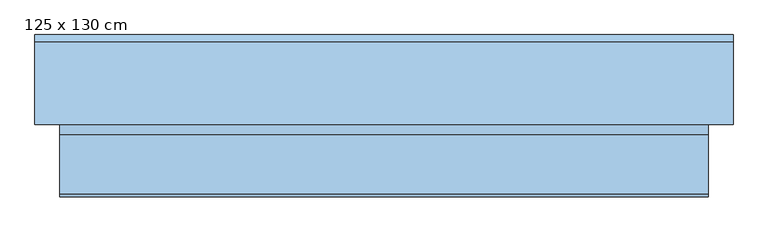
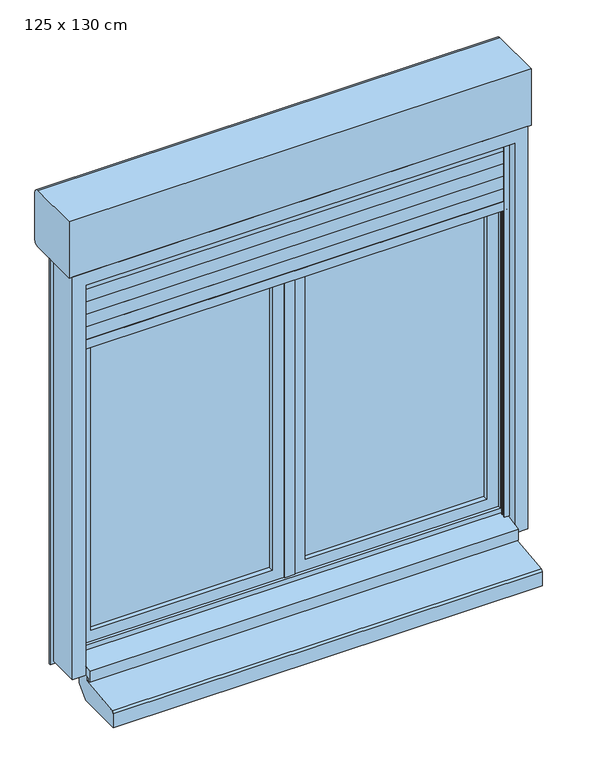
"""IFC4 building model written with IfcOpenShell, lengths in millimetres: window geometry, VR-2 Vantaux : 125 x 130 cm."""

import ifcopenshell
import ifcopenshell.guid

model = None  # the IFC model being written
_history = None  # IfcOwnerHistory: only IFC2X3 demands one
_inside = {}  # id of a spatial element -> (the spatial element, [elements in it])
_under = {}  # id of a project, library or spatial element -> (it, [spatial elements below it])
_declared = {}  # id of a project -> (the project, [libraries it declares])
_typed = {}  # id of a type object -> (the type object, [elements of that type])
_made_of = {}  # id of a material, layer set ... -> (it, [elements and type objects made of it])


def new_model(schema):
    """Start an empty IFC model of exactly this schema.

    Asked for "IFC4X3", IfcOpenShell would pick the latest addendum, in which some entities
    have other attributes; the version numbers below select the first issue.
    IFC2X3 requires an IfcOwnerHistory on every rooted entity: one is made here for all.
    """
    global model, _history
    if schema == "IFC4X3":
        model = ifcopenshell.file(schema_version=(4, 3, 0, 0))
    else:
        model = ifcopenshell.file(schema=schema)
    _inside.clear()
    _under.clear()
    _declared.clear()
    _typed.clear()
    _made_of.clear()
    _history = None
    if model.schema == "IFC2X3":
        org = make("IfcOrganization", Name="unknown")
        user = make(
            "IfcPersonAndOrganization",
            ThePerson=make("IfcPerson", FamilyName="unknown"),
            TheOrganization=org,
        )
        app = make(
            "IfcApplication",
            ApplicationDeveloper=org,
            Version="unknown",
            ApplicationFullName="unknown",
            ApplicationIdentifier="unknown",
        )
        _history = make(
            "IfcOwnerHistory",
            OwningUser=user,
            OwningApplication=app,
            ChangeAction="ADDED",
            CreationDate=0,
        )
    return model


def make(cls, **values):
    """One entity of the class cls with the attributes given. An attribute that is None is left unset."""
    return model.create_entity(
        cls, **{name: value for name, value in values.items() if value is not None}
    )


def rooted(cls, **values):
    """An entity with a GlobalId (a new one), such as an element, a storey or a relation."""
    return make(cls, GlobalId=ifcopenshell.guid.new(), OwnerHistory=_history, **values)


def si_unit(unit_type, name, prefix=None):
    """IfcSIUnit, for example si_unit("LENGTHUNIT", "METRE", prefix="MILLI")."""
    return make("IfcSIUnit", UnitType=unit_type, Prefix=prefix, Name=name)


def assignment(units):
    """IfcUnitAssignment: the units of a project."""
    return None if units is None else make("IfcUnitAssignment", Units=units)


def point(xyz):
    """IfcCartesianPoint."""
    return None if xyz is None else make("IfcCartesianPoint", Coordinates=xyz)


def direction(xyz):
    """IfcDirection."""
    return None if xyz is None else make("IfcDirection", DirectionRatios=xyz)


def frame(location, z_axis=None, x_axis=None):
    """IfcAxis2Placement3D, a coordinate frame: its origin and axes. An axis left out is left unset."""
    return make(
        "IfcAxis2Placement3D",
        Location=point(location),
        Axis=direction(z_axis),
        RefDirection=direction(x_axis),
    )


def frame_2d(location, x_axis=None):
    """IfcAxis2Placement2D, a coordinate frame in the plane: its origin and x axis."""
    return make(
        "IfcAxis2Placement2D", Location=point(location), RefDirection=direction(x_axis)
    )


def origin():
    """The frame at (0, 0, 0) with its axes left unset."""
    return frame((0.0, 0.0, 0.0))


def place(relative_to, where):
    """IfcLocalPlacement: puts the frame where relative to a parent placement (None: the world)."""
    return make(
        "IfcLocalPlacement", PlacementRelTo=relative_to, RelativePlacement=where
    )


def context(
    kind, dimensions, precision=None, world=None, true_north=None, identifier=None
):
    """IfcGeometricRepresentationContext, for example the 3D "Model" context."""
    return make(
        "IfcGeometricRepresentationContext",
        ContextIdentifier=identifier,
        ContextType=kind,
        CoordinateSpaceDimension=dimensions,
        Precision=precision,
        WorldCoordinateSystem=world,
        TrueNorth=true_north,
    )


def project(units=None, contexts=None):
    """IfcProject with its units and contexts."""
    return rooted(
        "IfcProject",
        Name="project",
        RepresentationContexts=contexts,
        UnitsInContext=assignment(units),
    )


def spatial(cls, under=None, at=None, **own):
    """A site, building, storey or space (cls), placed at a placement, below another one or the project."""
    s = rooted(cls, ObjectPlacement=at, **own)
    if under is not None:
        _under.setdefault(under.id(), (under, []))[1].append(s)
    return s


def polyline(points):
    """IfcPolyline through the points."""
    return make("IfcPolyline", Points=[point(p) for p in points])


def circle_curve(where, radius):
    """IfcCircle in the frame where."""
    return make("IfcCircle", Position=where, Radius=radius)


def trimmed(basis, trim1, trim2, sense, master):
    """IfcTrimmedCurve: the piece of a basis curve between two trims."""
    return make(
        "IfcTrimmedCurve",
        BasisCurve=basis,
        Trim1=trim1,
        Trim2=trim2,
        SenseAgreement=sense,
        MasterRepresentation=master,
    )


def segment(curve, same_sense, transition):
    """IfcCompositeCurveSegment."""
    return make(
        "IfcCompositeCurveSegment",
        Transition=transition,
        SameSense=same_sense,
        ParentCurve=curve,
    )


def composite_curve(segments, self_intersect=None):
    """IfcCompositeCurve: segments joined end to end."""
    return make("IfcCompositeCurve", Segments=segments, SelfIntersect=self_intersect)


def outline(outer, holes=None, kind="AREA"):
    """IfcArbitraryClosedProfileDef: a profile drawn as a closed curve; with holes, ...WithVoids."""
    if holes is None:
        return make("IfcArbitraryClosedProfileDef", ProfileType=kind, OuterCurve=outer)
    return make(
        "IfcArbitraryProfileDefWithVoids",
        ProfileType=kind,
        OuterCurve=outer,
        InnerCurves=holes,
    )


def extrude(swept, where, along, depth):
    """IfcExtrudedAreaSolid: the profile swept, set in the frame where, extruded along a direction by depth."""
    return make(
        "IfcExtrudedAreaSolid",
        SweptArea=swept,
        Position=where,
        ExtrudedDirection=direction(along),
        Depth=depth,
    )


def faces_of(points, faces, orient=None, outer=None):
    """IfcFace entities. A face is a list of loops; a loop is a list of indices into points, from 0.

    orient and outer hold one flag for each loop. By default every Orientation is true, the
    first loop of a face is its IfcFaceOuterBound and the others are IfcFaceBound.
    """
    made = []
    for i, loops in enumerate(faces):
        bounds = []
        for j, loop in enumerate(loops):
            is_outer = j == 0 if outer is None else outer[i][j]
            bounds.append(
                make(
                    "IfcFaceOuterBound" if is_outer else "IfcFaceBound",
                    Bound=make("IfcPolyLoop", Polygon=[points[k] for k in loop]),
                    Orientation=True if orient is None else orient[i][j],
                )
            )
        made.append(make("IfcFace", Bounds=bounds))
    return made


def faceted_brep(points, faces, orient=None, outer=None, voids=None):
    """IfcFacetedBrep: a solid bounded by flat faces; with voids (closed shells), ...WithVoids."""
    shared = [point(p) for p in points]
    hull = make("IfcClosedShell", CfsFaces=faces_of(shared, faces, orient, outer))
    if voids is None:
        return make("IfcFacetedBrep", Outer=hull)
    return make(
        "IfcFacetedBrepWithVoids",
        Outer=hull,
        Voids=[
            make(cls, CfsFaces=faces_of(shared, fs, o, b)) for cls, fs, o, b in voids
        ],
    )


def shape(context_of_items, identifier, shape_type, items):
    """IfcShapeRepresentation: the items that make up one representation, for example the "Body"."""
    return make(
        "IfcShapeRepresentation",
        ContextOfItems=context_of_items,
        RepresentationIdentifier=identifier,
        RepresentationType=shape_type,
        Items=items,
    )


def source(mapping_origin, context_of_items, identifier, shape_type, items):
    """IfcRepresentationMap: a shape defined once, which mapped items show again and again."""
    return make(
        "IfcRepresentationMap",
        MappingOrigin=mapping_origin,
        MappedRepresentation=shape(context_of_items, identifier, shape_type, items),
    )


def transform(
    local_origin,
    x_axis=None,
    y_axis=None,
    z_axis=None,
    scale=None,
    scale2=None,
    scale3=None,
    uniform=True,
):
    """IfcCartesianTransformationOperator3D, or its non-uniform kind. x_axis, y_axis, z_axis: its Axis1, 2, 3."""
    if uniform:
        return make(
            "IfcCartesianTransformationOperator3D",
            Axis1=direction(x_axis),
            Axis2=direction(y_axis),
            LocalOrigin=point(local_origin),
            Scale=scale,
            Axis3=direction(z_axis),
        )
    return make(
        "IfcCartesianTransformationOperator3DnonUniform",
        Axis1=direction(x_axis),
        Axis2=direction(y_axis),
        LocalOrigin=point(local_origin),
        Scale=scale,
        Axis3=direction(z_axis),
        Scale2=scale2,
        Scale3=scale3,
    )


def mapped(mapping_source, mapping_target):
    """IfcMappedItem: shows the shape of a source again, moved by a transform."""
    return make(
        "IfcMappedItem", MappingSource=mapping_source, MappingTarget=mapping_target
    )


def made_of(thing, what):
    """Note that an element or type object is made of a material, layer set ...; save() writes the relation."""
    if what is not None:
        _made_of.setdefault(what.id(), (what, []))[1].append(thing)
    return thing


def element(
    cls,
    number,
    at=None,
    inside=None,
    cuts=None,
    type_object=None,
    material=None,
    context=None,
    identifier="Body",
    shape_type=None,
    held_by="IfcProductDefinitionShape",
    body=None,
    shapes=None,
    **own,
):
    """One element of the class cls, such as IfcWall. Its Tag is "e" and its number.

    at: its placement. inside: the storey or other place that contains it. cuts: it is an
    opening in that element (IfcRelVoidsElement). A single representation is given by context,
    identifier, shape_type and body (its items); several are given by shapes. held_by: the class
    of the entity that holds the representations. save() writes the other relations.
    """
    e = rooted(cls, Tag="e%d" % number, ObjectPlacement=at, **own)
    if body is not None:
        shapes = [shape(context, identifier, shape_type, body)]
    if shapes is not None:
        e.Representation = make(held_by, Representations=shapes)
    if inside is not None:
        _inside.setdefault(inside.id(), (inside, []))[1].append(e)
    if cuts is not None:
        rooted(
            "IfcRelVoidsElement", RelatingBuildingElement=cuts, RelatedOpeningElement=e
        )
    if type_object is not None:
        _typed.setdefault(type_object.id(), (type_object, []))[1].append(e)
    return made_of(e, material)


def aggregate(whole, parts):
    """IfcRelAggregates: a whole, such as a stair, and the parts it consists of."""
    return rooted("IfcRelAggregates", RelatingObject=whole, RelatedObjects=parts)


def save(model, path):
    """Write the relations noted so far, then the file.

    IfcRelAggregates (storeys below a building ...), IfcRelContainedInSpatialStructure (elements
    in a storey), IfcRelDefinesByType, IfcRelAssociatesMaterial and IfcRelDeclares: one each for
    every whole, place, type object, material and project.
    """
    for whole, parts in _under.values():
        aggregate(whole, parts)
    for where, things in _inside.values():
        rooted(
            "IfcRelContainedInSpatialStructure",
            RelatedElements=things,
            RelatingStructure=where,
        )
    for kind, things in _typed.values():
        rooted("IfcRelDefinesByType", RelatedObjects=things, RelatingType=kind)
    for what, things in _made_of.values():
        rooted("IfcRelAssociatesMaterial", RelatedObjects=things, RelatingMaterial=what)
    for by, libraries in _declared.values():
        rooted("IfcRelDeclares", RelatingContext=by, RelatedDefinitions=libraries)
    model.write(path)


def window_125_x_130_cm_83626f77(model_context):
    return source(origin(), model_context, "Body", "SolidModel", [
        extrude(outline(composite_curve([segment(trimmed(circle_curve(frame_2d((-276.8500247, 1870.0)), 315.8500247), [point((38.3661521, 1890.0))], [point((38.3661521, 1850.0))], False, "CARTESIAN"), True, "CONTINUOUS"), segment(polyline([(38.3661521, 1850.0), (31.6338479, 1850.0)]), True, "CONTINUOUS"), segment(trimmed(circle_curve(frame_2d((346.8500247, 1870.0)), 315.8500247), [point((31.6338479, 1850.0))], [point((31.6338479, 1890.0))], False, "CARTESIAN"), True, "CONTINUOUS"), segment(polyline([(31.6338479, 1890.0), (38.3661521, 1890.0)]), True, "CONTINUOUS")], self_intersect=False)), frame((-647.0, 0.0, 0.0), z_axis=(1.0, 0.0, 0.0), x_axis=(0.0, 1.0, 0.0)), (0.0, 0.0, 1.0), 1294.0),
        extrude(outline(composite_curve([segment(trimmed(circle_curve(frame_2d((-276.8500247, 1910.0)), 315.8500247), [point((38.3661521, 1930.0))], [point((38.3661521, 1890.0))], False, "CARTESIAN"), True, "CONTINUOUS"), segment(polyline([(38.3661521, 1890.0), (31.6338479, 1890.0)]), True, "CONTINUOUS"), segment(trimmed(circle_curve(frame_2d((346.8500247, 1910.0)), 315.8500247), [point((31.6338479, 1890.0))], [point((31.6338479, 1930.0))], False, "CARTESIAN"), True, "CONTINUOUS"), segment(polyline([(31.6338479, 1930.0), (38.3661521, 1930.0)]), True, "CONTINUOUS")], self_intersect=False)), frame((-647.0, 0.0, 0.0), z_axis=(1.0, 0.0, 0.0), x_axis=(0.0, 1.0, 0.0)), (0.0, 0.0, 1.0), 1294.0),
        extrude(outline(composite_curve([segment(trimmed(circle_curve(frame_2d((-276.8500247, 1950.0)), 315.8500247), [point((38.3661521, 1970.0))], [point((38.3661521, 1930.0))], False, "CARTESIAN"), True, "CONTINUOUS"), segment(polyline([(38.3661521, 1930.0), (31.6338479, 1930.0)]), True, "CONTINUOUS"), segment(trimmed(circle_curve(frame_2d((346.8500247, 1950.0)), 315.8500247), [point((31.6338479, 1930.0))], [point((31.6338479, 1970.0))], False, "CARTESIAN"), True, "CONTINUOUS"), segment(polyline([(31.6338479, 1970.0), (38.3661521, 1970.0)]), True, "CONTINUOUS")], self_intersect=False)), frame((-647.0, 0.0, 0.0), z_axis=(1.0, 0.0, 0.0), x_axis=(0.0, 1.0, 0.0)), (0.0, 0.0, 1.0), 1294.0),
        extrude(outline(composite_curve([segment(trimmed(circle_curve(frame_2d((-276.8500247, 1990.0)), 315.8500247), [point((38.3661521, 2010.0))], [point((38.3661521, 1970.0))], False, "CARTESIAN"), True, "CONTINUOUS"), segment(polyline([(38.3661521, 1970.0), (31.6338479, 1970.0)]), True, "CONTINUOUS"), segment(trimmed(circle_curve(frame_2d((346.8500247, 1990.0)), 315.8500247), [point((31.6338479, 1970.0))], [point((31.6338479, 2010.0))], False, "CARTESIAN"), True, "CONTINUOUS"), segment(polyline([(31.6338479, 2010.0), (38.3661521, 2010.0)]), True, "CONTINUOUS")], self_intersect=False)), frame((-647.0, 0.0, 0.0), z_axis=(1.0, 0.0, 0.0), x_axis=(0.0, 1.0, 0.0)), (0.0, 0.0, 1.0), 1294.0),
        extrude(outline(composite_curve([segment(trimmed(circle_curve(frame_2d((-276.8500247, 2030.0)), 315.8500247), [point((38.3661521, 2050.0))], [point((38.3661521, 2010.0))], False, "CARTESIAN"), True, "CONTINUOUS"), segment(polyline([(38.3661521, 2010.0), (31.6338479, 2010.0)]), True, "CONTINUOUS"), segment(trimmed(circle_curve(frame_2d((346.8500247, 2030.0)), 315.8500247), [point((31.6338479, 2010.0))], [point((31.6338479, 2050.0))], False, "CARTESIAN"), True, "CONTINUOUS"), segment(polyline([(31.6338479, 2050.0), (38.3661521, 2050.0)]), True, "CONTINUOUS")], self_intersect=False)), frame((-647.0, 0.0, 0.0), z_axis=(1.0, 0.0, 0.0), x_axis=(0.0, 1.0, 0.0)), (0.0, 0.0, 1.0), 1294.0),
        extrude(outline(composite_curve([segment(trimmed(circle_curve(frame_2d((-276.8500247, 2070.0)), 315.8500247), [point((38.3661521, 2090.0))], [point((38.3661521, 2050.0))], False, "CARTESIAN"), True, "CONTINUOUS"), segment(polyline([(38.3661521, 2050.0), (31.6338479, 2050.0)]), True, "CONTINUOUS"), segment(trimmed(circle_curve(frame_2d((346.8500247, 2070.0)), 315.8500247), [point((31.6338479, 2050.0))], [point((31.6338479, 2090.0))], False, "CARTESIAN"), True, "CONTINUOUS"), segment(polyline([(31.6338479, 2090.0), (38.3661521, 2090.0)]), True, "CONTINUOUS")], self_intersect=False)), frame((-647.0, 0.0, 0.0), z_axis=(1.0, 0.0, 0.0), x_axis=(0.0, 1.0, 0.0)), (0.0, 0.0, 1.0), 1294.0),
        extrude(outline(polyline([(38.3661521, 1850.0), (39.0, 1849.3661521), (39.0, 1820.6338479), (38.3661521, 1820.0), (31.6338479, 1820.0), (31.0, 1820.6338479), (31.0, 1849.3661521), (31.6338479, 1850.0), (38.3661521, 1850.0)])), frame((-647.0, 0.0, 0.0), z_axis=(1.0, 0.0, 0.0), x_axis=(0.0, 1.0, 0.0)), (0.0, 0.0, 1.0), 1294.0),
        faceted_brep([(17.0, 121.0, 1356.0), (17.0, 121.0, 1344.0), (33.0, 121.0, 1344.0), (33.0, 121.0, 1356.0), (33.0, 133.4852814, 1356.0), (17.0, 133.4852814, 1356.0), (33.0, 128.5147186, 1344.0), (33.0, 135.0, 1337.5147186), (33.0, 135.0, 1337.2282668), (33.0, 137.7580139, 1258.5355339), (33.0, 147.0, 1258.5355339), (33.0, 147.0, 1342.4852814), (17.0, 128.5147186, 1344.0), (17.0, 147.0, 1342.4852814), (17.0, 147.0, 1258.5355339), (17.0, 137.7580139, 1258.5355339), (17.0, 135.0099909, 1337.2286157), (17.0, 135.0, 1337.5147186), (29.4644661, 147.0, 1255.0), (29.4644661, 137.8814775, 1255.0), (20.5355339, 137.8814775, 1255.0), (20.5355339, 147.0, 1255.0)], [[[0, 1, 2, 3]], [[3, 4, 5, 0]], [[2, 6, 7, 8, 9, 10, 11, 4, 3]], [[1, 12, 6, 2]], [[0, 5, 13, 14, 15, 16, 17, 12, 1]], [[4, 11, 13, 5]], [[6, 12, 17, 7]], [[18, 19, 20, 21]], [[11, 10, 18, 21, 14, 13]], [[17, 16, 8, 7]], [[16, 15, 20, 19, 9, 8]], [[9, 19, 18, 10]], [[14, 21, 20, 15]]]),
        extrude(outline(polyline([(1380.0, 18.0), (1375.0, 13.0), (1325.0, 13.0), (1320.0, 18.0), (1320.0, 32.0), (1325.0, 37.0), (1375.0, 37.0), (1380.0, 32.0), (1380.0, 18.0)])), frame((0.0, 113.0, 0.0), z_axis=(0.0, 1.0, 0.0), x_axis=(0.0, 0.0, 1.0)), (0.0, 0.0, 1.0), 8.0),
        extrude(outline(polyline([(0.0, 720.0), (-145.0, 720.0), (-145.0, 765.0), (-139.6590909, 770.3409091), (-5.0, 785.0), (-5.0, 800.0), (35.0, 800.0), (35.0, 755.0), (0.0, 720.0)])), frame((-650.0, 0.0, 0.0), z_axis=(1.0, 0.0, 0.0), x_axis=(0.0, 1.0, 0.0)), (0.0, 0.0, 1.0), 1300.0),
        extrude(outline(polyline([(-600.0, 74.5), (-600.0, 98.5), (-50.0, 98.5), (-50.0, 74.5), (-600.0, 74.5)])), frame((0.0, 0.0, 890.0), z_axis=(0.0, 0.0, 1.0), x_axis=(1.0, 0.0, 0.0)), (0.0, 0.0, 1.0), 1110.0),
        extrude(outline(polyline([(50.0, 74.5), (50.0, 98.5), (600.0, 98.5), (600.0, 74.5), (50.0, 74.5)])), frame((0.0, 0.0, 890.0), z_axis=(0.0, 0.0, 1.0), x_axis=(1.0, 0.0, 0.0)), (0.0, 0.0, 1.0), 1110.0),
        faceted_brep([(660.0, 105.0, 2060.0), (660.0, 105.0, 830.0), (660.0, 113.0, 830.0), (660.0, 113.0, 2060.0), (-10.0, 113.0, 2060.0), (-10.0, 113.0, 830.0), (600.0, 113.0, 2000.0), (50.0, 113.0, 2000.0), (50.0, 113.0, 890.0), (600.0, 113.0, 890.0), (-10.0, 105.0, 830.0), (-10.0, 105.0, 2060.0), (0.0, 105.0, 2050.0), (650.0, 105.0, 2050.0), (650.0, 105.0, 840.0), (0.0, 105.0, 840.0), (650.0, 60.0, 2050.0), (650.0, 60.0, 840.0), (0.0, 60.0, 840.0), (0.0, 60.0, 2050.0), (50.0, 60.0, 2000.0), (600.0, 60.0, 2000.0), (600.0, 60.0, 890.0), (50.0, 60.0, 890.0)], [[[0, 1, 2, 3]], [[4, 3, 2, 5], [6, 7, 8, 9]], [[1, 10, 5, 2]], [[0, 11, 10, 1], [12, 13, 14, 15]], [[16, 17, 14, 13]], [[17, 18, 15, 14]], [[16, 19, 18, 17], [20, 21, 22, 23]], [[6, 9, 22, 21]], [[9, 8, 23, 22]], [[10, 11, 4, 5]], [[18, 19, 12, 15]], [[8, 7, 20, 23]], [[11, 0, 3, 4]], [[19, 16, 13, 12]], [[7, 6, 21, 20]]]),
        faceted_brep([(0.0, 60.0, 2050.0), (0.0, 60.0, 840.0), (0.0, 105.0, 840.0), (0.0, 105.0, 2050.0), (-12.0, 105.0, 2050.0), (-12.0, 105.0, 840.0), (-650.0, 60.0, 840.0), (-650.0, 105.0, 840.0), (-650.0, 60.0, 2050.0), (-50.0, 60.0, 2000.0), (-50.0, 60.0, 890.0), (-600.0, 60.0, 890.0), (-600.0, 60.0, 2000.0), (-50.0, 113.0, 2000.0), (-50.0, 113.0, 890.0), (-600.0, 113.0, 890.0), (-660.0, 113.0, 2060.0), (-12.0, 113.0, 2060.0), (-12.0, 113.0, 830.0), (-660.0, 113.0, 830.0), (-600.0, 113.0, 2000.0), (-12.0, 105.0, 830.0), (-660.0, 105.0, 830.0), (-660.0, 105.0, 2060.0), (-650.0, 105.0, 2050.0), (-12.0, 105.0, 2060.0)], [[[0, 1, 2, 3]], [[4, 3, 2, 5]], [[1, 6, 7, 5, 2]], [[8, 6, 1, 0], [9, 10, 11, 12]], [[13, 14, 10, 9]], [[14, 15, 11, 10]], [[16, 17, 18, 19], [20, 15, 14, 13]], [[19, 18, 21, 22]], [[16, 19, 22, 23]], [[22, 21, 5, 7, 24, 4, 25, 23]], [[5, 21, 18, 17, 25, 4]], [[24, 7, 6, 8]], [[12, 11, 15, 20]], [[23, 25, 17, 16]], [[8, 0, 3, 4, 24]], [[20, 13, 9, 12]]]),
        faceted_brep([(-690.0, 0.0, 800.0), (-690.0, 100.0, 800.0), (690.0, 100.0, 800.0), (690.0, 0.0, 800.0), (650.0, 0.0, 800.0), (650.0, -15.0, 800.0), (-650.0, -15.0, 800.0), (-650.0, 0.0, 800.0), (-650.0, 0.0, 829.2857143), (-650.0, 0.0, 2050.0), (650.0, 0.0, 2050.0), (650.0, 0.0, 829.2857143), (690.0, 0.0, 2090.0), (-690.0, 0.0, 2090.0), (-650.0, -20.0, 825.0), (-650.0, -15.0, 790.0), (-650.0, -20.0, 790.0), (650.0, -15.0, 790.0), (650.0, -20.0, 825.0), (650.0, -20.0, 790.0), (690.0, 100.0, 2090.0), (700.0, 100.0, 790.0), (700.0, 100.0, 2090.0), (-690.0, 100.0, 2090.0), (-700.0, 100.0, 2090.0), (-700.0, 100.0, 790.0), (650.0, 30.0, 2050.0), (650.0, 30.0, 2090.0), (650.0, 40.0, 2090.0), (650.0, 40.0, 2050.0), (650.0, 50.0, 2050.0), (650.0, 50.0, 840.0), (-650.0, 50.0, 840.0), (-650.0, 50.0, 2050.0), (-650.0, 40.0, 2050.0), (-650.0, 40.0, 2090.0), (-650.0, 30.0, 2090.0), (-650.0, 30.0, 2050.0), (635.0, 50.0, 2035.0), (635.0, 50.0, 855.0), (-635.0, 50.0, 855.0), (-635.0, 50.0, 2035.0), (-635.0, 60.0, 855.0), (-635.0, 60.0, 2035.0), (635.0, 60.0, 855.0), (635.0, 60.0, 2035.0), (650.0, 60.0, 2050.0), (650.0, 60.0, 840.0), (-650.0, 60.0, 840.0), (-650.0, 60.0, 2050.0), (-650.0, 105.0, 840.0), (-650.0, 105.0, 2050.0), (650.0, 105.0, 840.0), (650.0, 105.0, 2050.0), (-700.0, 105.0, 790.0), (-700.0, 105.0, 2090.0), (700.0, 105.0, 2090.0), (700.0, 105.0, 790.0)], [[[0, 1, 2, 3, 4, 5, 6, 7]], [[7, 8, 9, 10, 11, 4, 3, 12, 13, 0]], [[14, 8, 7, 6, 15, 16]], [[6, 5, 17, 15]], [[5, 4, 11, 18, 19, 17]], [[3, 2, 20, 12]], [[21, 22, 20, 2, 1, 23, 24, 25]], [[0, 13, 23, 1]], [[10, 26, 27, 28, 29, 30, 31, 11]], [[8, 32, 33, 34, 35, 36, 37, 9]], [[33, 32, 31, 30], [38, 39, 40, 41]], [[18, 11, 31, 32, 8, 14]], [[41, 40, 42, 43]], [[42, 40, 39, 44]], [[45, 44, 39, 38]], [[46, 47, 48, 49], [43, 42, 44, 45]], [[49, 48, 50, 51]], [[47, 52, 50, 48]], [[53, 52, 47, 46]], [[54, 55, 56, 57], [51, 50, 52, 53]], [[57, 21, 25, 54]], [[57, 56, 22, 21]], [[25, 24, 55, 54]], [[16, 19, 18, 14]], [[15, 17, 19, 16]], [[9, 37, 26, 10]], [[30, 29, 34, 33]], [[41, 43, 45, 38]], [[49, 51, 53, 46]], [[12, 20, 22, 56, 55, 24, 23, 13], [27, 36, 35, 28]], [[26, 37, 36, 27]], [[28, 35, 34, 29]]]),
        extrude(outline(polyline([(-635.0, 42.4758166), (-635.0, 40.0), (-646.9970092, 40.0), (-646.9970092, 30.0), (-635.0, 30.0), (-635.0, 27.4725917), (-650.0, 27.4725917), (-650.0, 42.4758166), (-635.0, 42.4758166)])), frame((0.0, 0.0, 840.0), z_axis=(0.0, 0.0, 1.0), x_axis=(1.0, 0.0, 0.0)), (0.0, 0.0, 1.0), 1210.0),
        extrude(outline(polyline([(650.0, 42.4758166), (650.0, 27.4725917), (635.0, 27.4725917), (635.0, 30.0), (647.0, 30.0), (647.0, 40.0), (635.0, 40.0), (635.0, 42.4758166), (650.0, 42.4758166)])), frame((0.0, 0.0, 840.0), z_axis=(0.0, 0.0, 1.0), x_axis=(1.0, 0.0, 0.0)), (0.0, 0.0, 1.0), 1210.0),
        extrude(outline(composite_curve([segment(polyline([(0.0, 2090.0), (0.0, 2270.0), (165.0, 2270.0)]), True, "CONTINUOUS"), segment(trimmed(circle_curve(frame_2d((165.0, 2255.0)), 15.0), [point((165.0, 2270.0))], [point((180.0, 2255.0))], False, "CARTESIAN"), True, "CONTINUOUS"), segment(polyline([(180.0, 2255.0), (180.0, 2105.0)]), True, "CONTINUOUS"), segment(trimmed(circle_curve(frame_2d((165.0, 2105.0)), 15.0), [point((180.0, 2105.0))], [point((165.0, 2090.0))], False, "CARTESIAN"), True, "CONTINUOUS"), segment(polyline([(165.0, 2090.0), (0.0, 2090.0)]), True, "CONTINUOUS")], self_intersect=False)), frame((-700.0, 0.0, 0.0), z_axis=(1.0, 0.0, 0.0), x_axis=(0.0, 1.0, 0.0)), (0.0, 0.0, 1.0), 1400.0),
        extrude(outline(polyline([(-15.0, 55.0), (-15.0, 60.0), (15.0, 60.0), (15.0, 55.0), (-15.0, 55.0)])), frame((0.0, 0.0, 857.0), z_axis=(0.0, 0.0, 1.0), x_axis=(1.0, 0.0, 0.0)), (0.0, 0.0, 1.0), 1176.0),
    ])


if __name__ == "__main__":
    model = new_model("IFC4")
    model_context = context("Model", 3, world=origin())
    ifc_project = project(units=[si_unit("LENGTHUNIT", "METRE", prefix="MILLI")], contexts=[model_context])
    site = spatial("IfcSite", under=ifc_project)
    building = spatial("IfcBuilding", under=site)
    placement = place(None, origin())
    window_125_x_130_cm_shape = window_125_x_130_cm_83626f77(model_context)
    element("IfcWindow", 1, ObjectType="VR-2 Vantaux : 125 x 130 cm", at=placement, inside=building, context=model_context, shape_type="MappedRepresentation", body=[
        mapped(window_125_x_130_cm_shape, transform((0.0, 0.0, 0.0), x_axis=(1.0, 0.0, 0.0), y_axis=(0.0, 1.0, 0.0), z_axis=(0.0, 0.0, 1.0))),
    ])
    save(model, "model.ifc")
